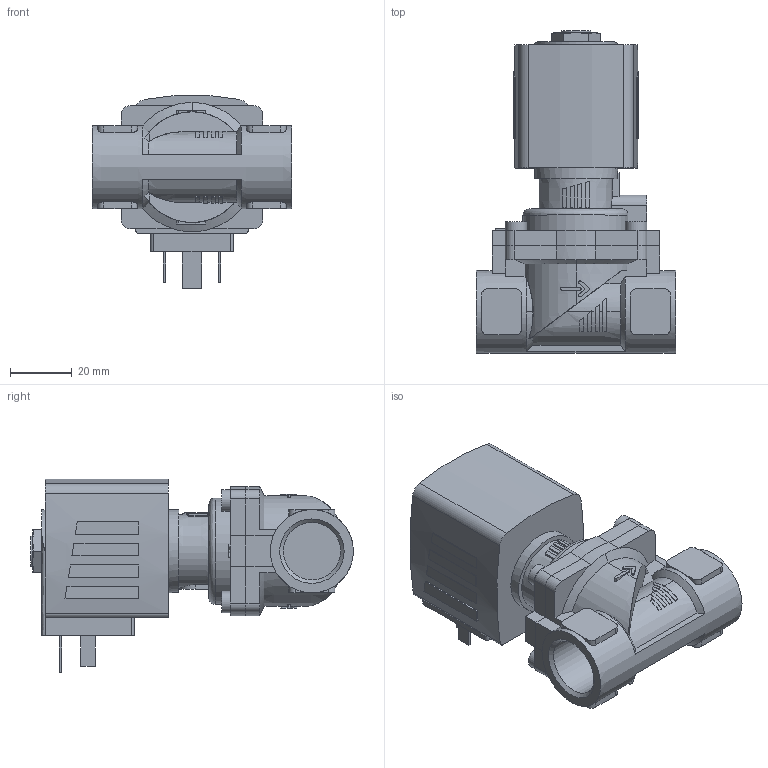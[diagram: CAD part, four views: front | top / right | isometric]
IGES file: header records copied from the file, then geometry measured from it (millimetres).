
Start section: Data from Parasolid IGES Translator 26.0.171, Copyright(c) 2006 Siemens PLM Software. All Rights Reserved.
Global section: file name: 6281-277051-2_2-Way_Solenoid_Valve__Servo-assisted__General_Purpose.igs; native system: By Siemens PLM Incorporated; preprocessor: XPlus GENERIC/IGES 26.0.171; author: Noname; organization: Noname; date: 20240621.150801; units: millimetre
Bounding box: 65 x 105 x 62.83 mm (x, y, z)
Surface area: 31431.8 mm2 (no closed solid volume)
Topology: 0 solids, 0 shells, 372 faces, 1924 edges, 1909 vertices
Faces by surface type: extrusion 242, revolution 130
